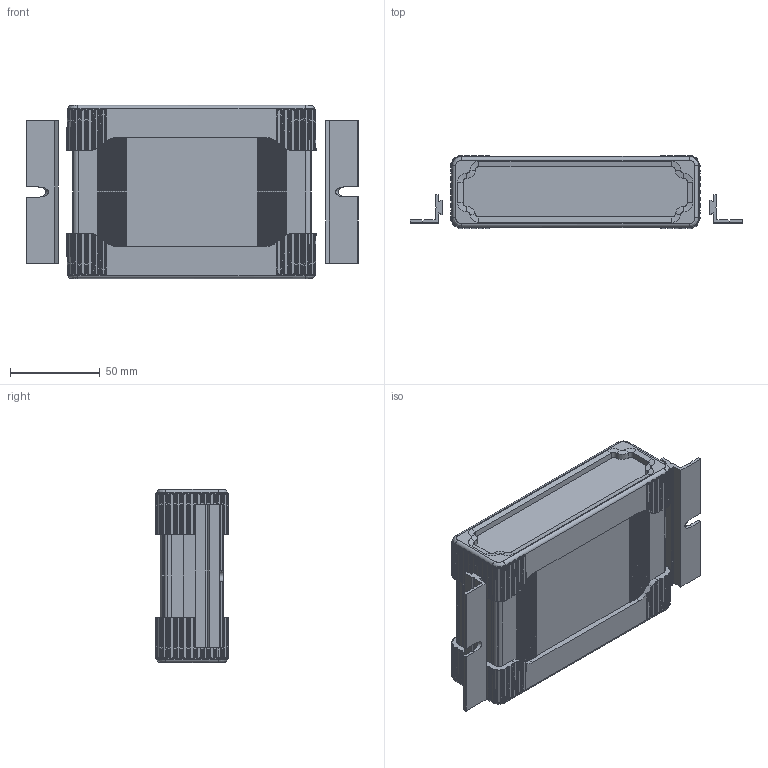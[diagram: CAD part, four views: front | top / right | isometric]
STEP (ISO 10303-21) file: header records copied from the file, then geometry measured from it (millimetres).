
FILE_DESCRIPTION (( 'STEP AP214' ), '1' );
FILE_NAME ('B5-080 Assembly.STEP', '2019-05-14T19:42:32', ( '' ), ( '' ), 'SwSTEP 2.0', 'SolidWorks 2014', '' );
FILE_SCHEMA (( 'AUTOMOTIVE_DESIGN' ));
Length unit declared in the file: millimetre
Products named in the file (9): MF-80; Screw assembly; Torx Screw M3X0.5; SEALING WASHER; End Plate; SK1 Seal; B5-080 Main Body; B5-080 Assembly; EC5_END_CAP_OPTIONAL_ACCESSORY_1
Assembly tree (19 placements, depth 3):
  B5-080 Assembly
    B5-080 Main Body
    SK1 Seal  x2
    End Plate  x2
    Screw assembly  x8
      SEALING WASHER
      Torx Screw M3X0.5
    MF-80  x2
    EC5_END_CAP_OPTIONAL_ACCESSORY_1  x2
Bounding box: 185 x 41 x 96.5 mm (x, y, z)
Volume: 143794.9 mm3; surface area: 138611.5 mm2
Topology: 25 solids, 25 shells, 2161 faces, 5573 edges, 3494 vertices
Faces by surface type: cylinder 681, bspline 678, plane 516, cone 270, torus 16
Entity records: 58531 total; most frequent: CARTESIAN_POINT 25384, ORIENTED_EDGE 5956, DIRECTION 4073, EDGE_CURVE 2978, VERTEX_POINT 1881, AXIS2_PLACEMENT_3D 1406, VECTOR 1261, LINE 1261
